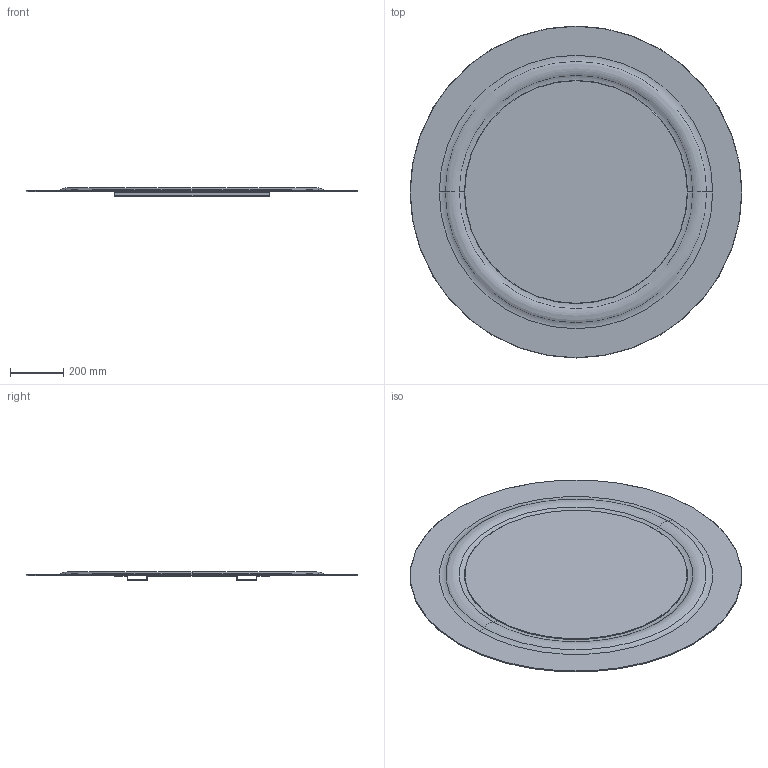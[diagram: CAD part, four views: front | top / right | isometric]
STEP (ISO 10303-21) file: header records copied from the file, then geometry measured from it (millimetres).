
FILE_DESCRIPTION (( 'STEP AP203' ), '1' );
FILE_NAME ('EMI01_Emily_d.125.STEP', '2024-08-02T08:59:59', ( '' ), ( '' ), 'SwSTEP 2.0', 'SolidWorks 2022', '' );
FILE_SCHEMA (( 'CONFIG_CONTROL_DESIGN' ));
Length unit declared in the file: millimetre
Products named in the file (3): EMI01_A-00-SPECCHIO EMILY DIAM 125; EMI01_B-00-LAMIERA ANCORAGGIO PIEGATA; EMI01_Emily_d.125
Assembly tree (2 placements, depth 2):
  EMI01_Emily_d.125
    EMI01_A-00-SPECCHIO EMILY DIAM 125
    EMI01_B-00-LAMIERA ANCORAGGIO PIEGATA
Bounding box: 1250 x 1250 x 31.8 mm (x, y, z)
Volume: 7946464.9 mm3; surface area: 6795583.5 mm2
Topology: 4 solids, 4 shells, 178 faces, 402 edges, 228 vertices
Faces by surface type: plane 104, cylinder 42, torus 24, cone 8
Entity records: 5187 total; most frequent: DIRECTION 916, CARTESIAN_POINT 813, ORIENTED_EDGE 804, EDGE_CURVE 402, AXIS2_PLACEMENT_3D 331, VECTOR 254, LINE 254, VERTEX_POINT 228
